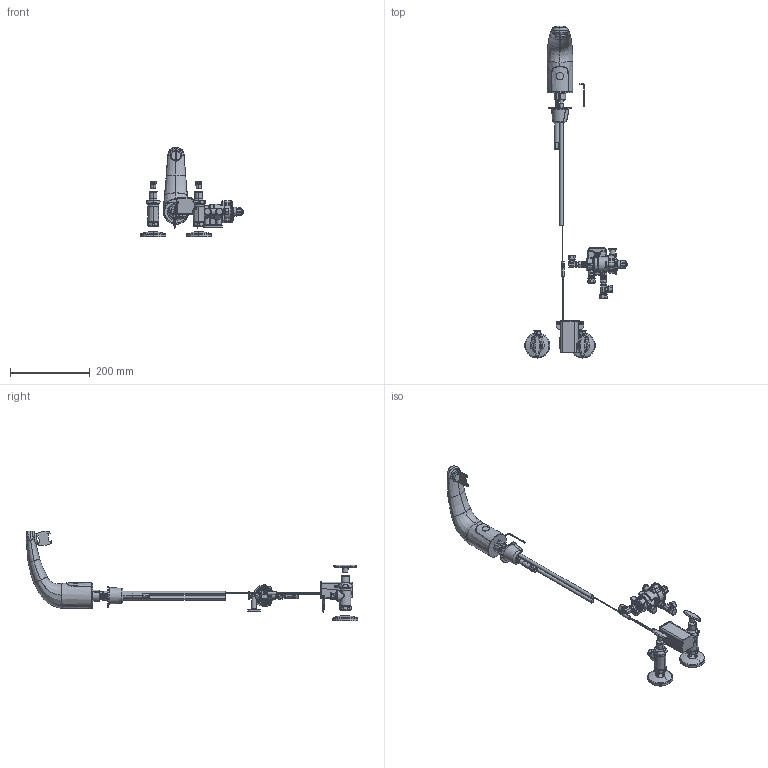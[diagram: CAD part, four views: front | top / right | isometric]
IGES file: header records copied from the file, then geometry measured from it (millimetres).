
Start section:  PTC IGES file: 116-815-ab-1t_REV062922.igs
Global section: file name: 116-815-ab-1t_REV062922.igs; native system: Creo Parametric by PTC Inc.; preprocessor: 2021184; author: rodjo; organization: Unknown; date: 20220629.154927; units: inch
Bounding box: 258.48 x 833.86 x 225.69 mm (x, y, z)
Surface area: 223117.1 mm2 (no closed solid volume)
Topology: 0 solids, 0 shells, 1882 faces, 16390 edges, 22514 vertices
Faces by surface type: revolution 1018, bspline 864
